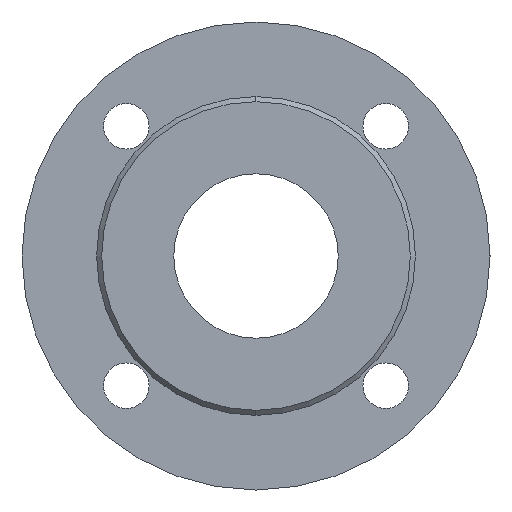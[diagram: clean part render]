
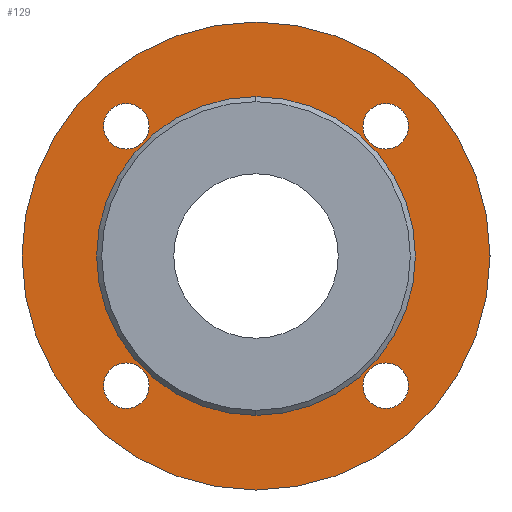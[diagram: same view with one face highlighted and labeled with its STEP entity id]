
A CAD part, left-side view. The second image highlights one B-rep face of the part: STEP entity #129.
In plain terms, the highlighted planar face has unit normal (-1, 0, 0).
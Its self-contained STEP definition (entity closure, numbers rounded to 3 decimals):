
#129=ADVANCED_FACE('',(#274,#275,#276,#277,#278,#279),#280,.F.);
#274=FACE_BOUND('',#474,.T.);
#275=FACE_BOUND('',#475,.T.);
#276=FACE_BOUND('',#476,.T.);
#277=FACE_BOUND('',#477,.T.);
#278=FACE_BOUND('',#478,.T.);
#279=FACE_OUTER_BOUND('',#479,.T.);
#280=PLANE('',#480);
#474=EDGE_LOOP('',(#691,#692));
#475=EDGE_LOOP('',(#693,#694));
#476=EDGE_LOOP('',(#695,#696));
#477=EDGE_LOOP('',(#697,#698));
#478=EDGE_LOOP('',(#699,#700));
#479=EDGE_LOOP('',(#701,#702));
#480=AXIS2_PLACEMENT_3D('',#703,#704,#705);
#691=ORIENTED_EDGE('',*,*,#1042,.T.);
#692=ORIENTED_EDGE('',*,*,#1063,.T.);
#693=ORIENTED_EDGE('',*,*,#1064,.T.);
#694=ORIENTED_EDGE('',*,*,#1065,.T.);
#695=ORIENTED_EDGE('',*,*,#1066,.T.);
#696=ORIENTED_EDGE('',*,*,#1067,.T.);
#697=ORIENTED_EDGE('',*,*,#1047,.T.);
#698=ORIENTED_EDGE('',*,*,#1068,.T.);
#699=ORIENTED_EDGE('',*,*,#1037,.T.);
#700=ORIENTED_EDGE('',*,*,#1069,.T.);
#701=ORIENTED_EDGE('',*,*,#1030,.F.);
#702=ORIENTED_EDGE('',*,*,#1070,.F.);
#703=CARTESIAN_POINT('',(2.0,0.0,0.));
#704=DIRECTION('',(1.0,0.0,0.));
#705=DIRECTION('',(0.,0.0,-1.0));
#1030=EDGE_CURVE('',#1196,#1199,#1200,.T.);
#1037=EDGE_CURVE('',#1206,#1210,#1212,.T.);
#1042=EDGE_CURVE('',#1215,#1219,#1221,.T.);
#1047=EDGE_CURVE('',#1224,#1228,#1230,.T.);
#1063=EDGE_CURVE('',#1219,#1215,#1254,.T.);
#1064=EDGE_CURVE('',#1255,#1256,#1257,.T.);
#1065=EDGE_CURVE('',#1256,#1255,#1258,.T.);
#1066=EDGE_CURVE('',#1259,#1260,#1261,.T.);
#1067=EDGE_CURVE('',#1260,#1259,#1262,.T.);
#1068=EDGE_CURVE('',#1228,#1224,#1263,.T.);
#1069=EDGE_CURVE('',#1210,#1206,#1264,.T.);
#1070=EDGE_CURVE('',#1199,#1196,#1265,.T.);
#1196=VERTEX_POINT('',#1429);
#1199=VERTEX_POINT('',#1433);
#1200=CIRCLE('',#1434,92.5);
#1206=VERTEX_POINT('',#1441);
#1210=VERTEX_POINT('',#1446);
#1212=CIRCLE('',#1449,9.0);
#1215=VERTEX_POINT('',#1452);
#1219=VERTEX_POINT('',#1457);
#1221=CIRCLE('',#1460,32.5);
#1224=VERTEX_POINT('',#1463);
#1228=VERTEX_POINT('',#1468);
#1230=CIRCLE('',#1471,9.0);
#1254=CIRCLE('',#1497,32.5);
#1255=VERTEX_POINT('',#1498);
#1256=VERTEX_POINT('',#1499);
#1257=CIRCLE('',#1500,9.0);
#1258=CIRCLE('',#1501,9.0);
#1259=VERTEX_POINT('',#1502);
#1260=VERTEX_POINT('',#1503);
#1261=CIRCLE('',#1504,9.0);
#1262=CIRCLE('',#1505,9.0);
#1263=CIRCLE('',#1506,9.0);
#1264=CIRCLE('',#1507,9.0);
#1265=CIRCLE('',#1508,92.5);
#1429=CARTESIAN_POINT('',(2.,0.0,-92.5));
#1433=CARTESIAN_POINT('',(2.,0.,92.5));
#1434=AXIS2_PLACEMENT_3D('',#1699,#1700,#1701);
#1441=CARTESIAN_POINT('',(2.0,-51.265,-60.265));
#1446=CARTESIAN_POINT('',(2.0,-51.265,-42.265));
#1449=AXIS2_PLACEMENT_3D('',#1711,#1712,#1713);
#1452=CARTESIAN_POINT('',(2.0,0.0,-32.5));
#1457=CARTESIAN_POINT('',(2.0,0.,32.5));
#1460=AXIS2_PLACEMENT_3D('',#1719,#1720,#1721);
#1463=CARTESIAN_POINT('',(2.0,-51.265,42.265));
#1468=CARTESIAN_POINT('',(2.0,-51.265,60.265));
#1471=AXIS2_PLACEMENT_3D('',#1727,#1728,#1729);
#1497=AXIS2_PLACEMENT_3D('',#1762,#1763,#1764);
#1498=CARTESIAN_POINT('',(2.0,51.265,-60.265));
#1499=CARTESIAN_POINT('',(2.0,51.265,-42.265));
#1500=AXIS2_PLACEMENT_3D('',#1765,#1766,#1767);
#1501=AXIS2_PLACEMENT_3D('',#1768,#1769,#1770);
#1502=CARTESIAN_POINT('',(2.0,51.265,42.265));
#1503=CARTESIAN_POINT('',(2.0,51.265,60.265));
#1504=AXIS2_PLACEMENT_3D('',#1771,#1772,#1773);
#1505=AXIS2_PLACEMENT_3D('',#1774,#1775,#1776);
#1506=AXIS2_PLACEMENT_3D('',#1777,#1778,#1779);
#1507=AXIS2_PLACEMENT_3D('',#1780,#1781,#1782);
#1508=AXIS2_PLACEMENT_3D('',#1783,#1784,#1785);
#1699=CARTESIAN_POINT('',(2.0,0.0,0.));
#1700=DIRECTION('',(1.0,0.0,0.));
#1701=DIRECTION('',(0.,0.0,-1.0));
#1711=CARTESIAN_POINT('',(2.0,-51.265,-51.265));
#1712=DIRECTION('',(1.0,0.0,0.));
#1713=DIRECTION('',(0.,0.0,-1.0));
#1719=CARTESIAN_POINT('',(2.0,0.0,0.));
#1720=DIRECTION('',(1.0,0.0,0.));
#1721=DIRECTION('',(0.,0.0,-1.0));
#1727=CARTESIAN_POINT('',(2.0,-51.265,51.265));
#1728=DIRECTION('',(1.0,0.0,0.));
#1729=DIRECTION('',(0.,0.0,-1.0));
#1762=CARTESIAN_POINT('',(2.0,0.0,0.));
#1763=DIRECTION('',(1.0,0.0,0.));
#1764=DIRECTION('',(0.,0.0,-1.0));
#1765=CARTESIAN_POINT('',(2.0,51.265,-51.265));
#1766=DIRECTION('',(1.0,0.0,0.));
#1767=DIRECTION('',(0.,0.0,-1.0));
#1768=CARTESIAN_POINT('',(2.0,51.265,-51.265));
#1769=DIRECTION('',(1.0,0.0,0.));
#1770=DIRECTION('',(0.,0.0,-1.0));
#1771=CARTESIAN_POINT('',(2.0,51.265,51.265));
#1772=DIRECTION('',(1.0,0.0,0.));
#1773=DIRECTION('',(0.,0.0,-1.0));
#1774=CARTESIAN_POINT('',(2.0,51.265,51.265));
#1775=DIRECTION('',(1.0,0.0,0.));
#1776=DIRECTION('',(0.,0.0,-1.0));
#1777=CARTESIAN_POINT('',(2.0,-51.265,51.265));
#1778=DIRECTION('',(1.0,0.0,0.));
#1779=DIRECTION('',(0.,0.0,-1.0));
#1780=CARTESIAN_POINT('',(2.0,-51.265,-51.265));
#1781=DIRECTION('',(1.0,0.0,0.));
#1782=DIRECTION('',(0.,0.0,-1.0));
#1783=CARTESIAN_POINT('',(2.0,0.0,0.));
#1784=DIRECTION('',(1.0,0.0,0.));
#1785=DIRECTION('',(0.,0.0,-1.0));
